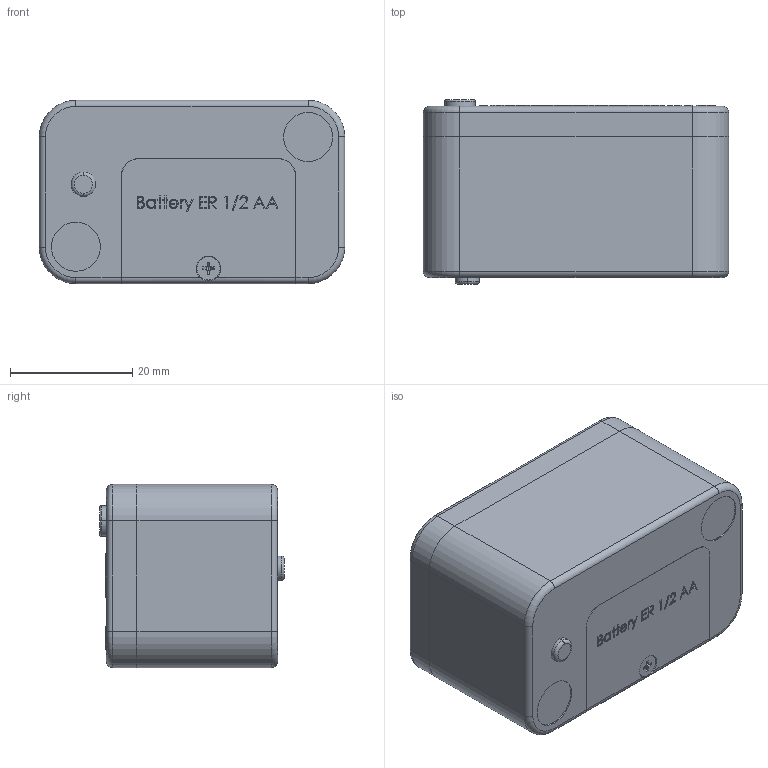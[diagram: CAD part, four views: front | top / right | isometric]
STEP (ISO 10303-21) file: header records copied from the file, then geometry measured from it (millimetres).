
FILE_DESCRIPTION (( 'STEP AP214' ), '1' );
FILE_NAME ('30-conjunto_cambio_pila.STEP', '2015-07-14T10:59:40', ( '' ), ( '' ), 'SwSTEP 2.0', 'SolidWorks 2015', '' );
FILE_SCHEMA (( 'AUTOMOTIVE_DESIGN' ));
Length unit declared in the file: millimetre
Products named in the file (14): 30-boton superior; 30-tapa; 30-portapila; 30-conjunto_cambio_pila; 30-Beta; 30-8CCRE5328; 30-3IMAN8X3-80º; 30-3PLAST-CCRE; countersunk flat head cross recess screw_din_ISO 7046-1 - M2 x 5 - Z --- 5N; 30-boton posterior; 30-inserto_ tapa; 30-PILA 1I2 AA; 30-3PANTALLA-CC; 30-PILA
Assembly tree (14 placements, depth 2):
  30-conjunto_cambio_pila
    30-3PLAST-CCRE
    30-tapa
    30-PILA
    30-portapila
    30-PILA 1I2 AA
    30-3IMAN8X3-80º  x2
    30-8CCRE5328
    30-boton posterior
    30-boton superior
    30-3PANTALLA-CC
    30-Beta
    30-inserto_ tapa
    countersunk flat head cross recess screw_din_ISO 7046-1 - M2 x 5 - Z --- 5N
Bounding box: 50 x 30.2 x 30 mm (x, y, z)
Volume: 23885.8 mm3; surface area: 26277.6 mm2
Topology: 18 solids, 18 shells, 2020 faces, 5595 edges, 3690 vertices
Faces by surface type: plane 1514, cylinder 229, bspline 210, torus 42, cone 23, sphere 2
Entity records: 71144 total; most frequent: CARTESIAN_POINT 18798, ORIENTED_EDGE 11170, DIRECTION 9090, EDGE_CURVE 5585, VECTOR 4354, LINE 4354, VERTEX_POINT 3686, AXIS2_PLACEMENT_3D 2368
